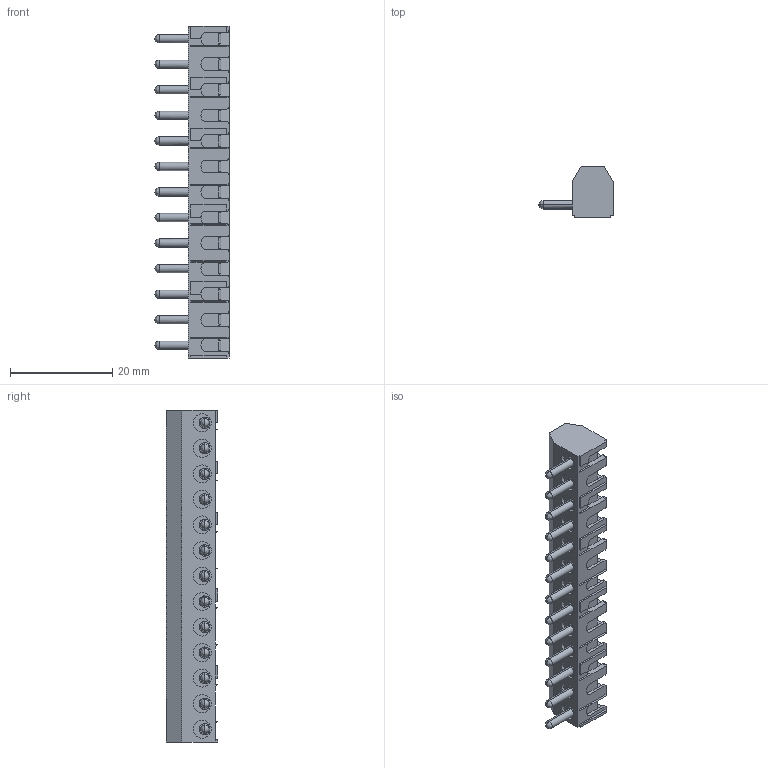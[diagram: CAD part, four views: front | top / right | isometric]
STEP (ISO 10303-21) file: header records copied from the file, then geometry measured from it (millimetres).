
FILE_DESCRIPTION (( 'STEP AP214' ), '1' );
FILE_NAME ('951-SV-DS-13.STEP', '2008-03-17T01:39:07', ( ' ' ), ( '' ), 'SwSTEP 2.0', 'SolidWorks 2007', '' );
FILE_SCHEMA (( 'AUTOMOTIVE_DESIGN' ));
Length unit declared in the file: millimetre
Products named in the file (1): 951-SV-DS-13
Bounding box: 14.5 x 10 x 65 mm (x, y, z)
Volume: 4017.5 mm3; surface area: 4027.4 mm2
Topology: 1 solids, 1 shells, 953 faces, 2998 edges, 1956 vertices
Faces by surface type: plane 610, cylinder 213, bspline 104, cone 26
Entity records: 37402 total; most frequent: CARTESIAN_POINT 11516, ORIENTED_EDGE 5944, DIRECTION 4867, EDGE_CURVE 2972, VERTEX_POINT 1956, VECTOR 1805, LINE 1805, AXIS2_PLACEMENT_3D 1531
